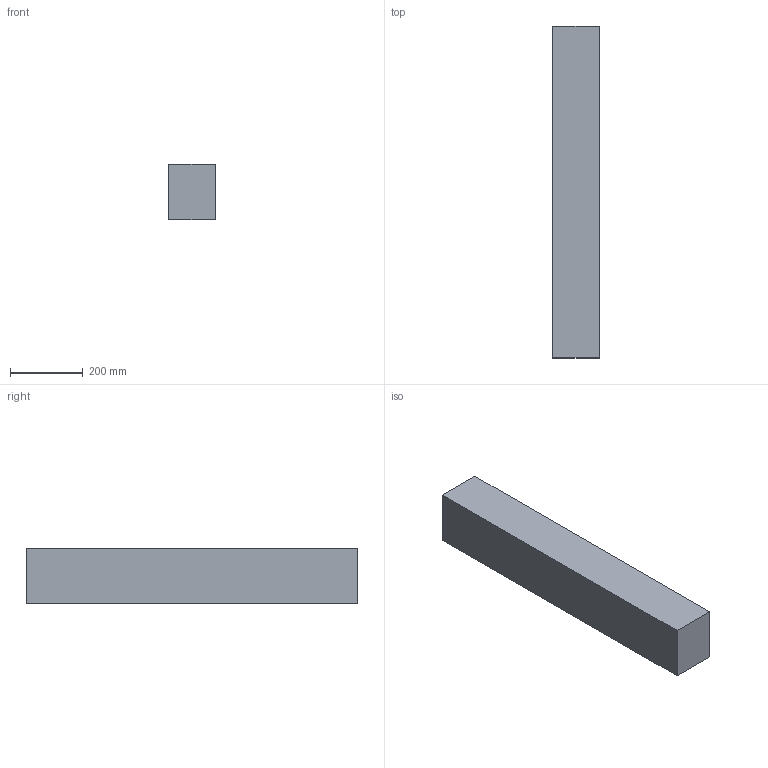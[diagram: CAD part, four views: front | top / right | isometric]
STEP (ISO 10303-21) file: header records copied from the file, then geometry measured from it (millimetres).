
FILE_DESCRIPTION(/* description */ (''),/* implementation_level */ '2;1');
FILE_NAME(/* name */ '5x6x36',/* time_stamp */ '2024-09-20T11:46:06-05:00',/* author */ (''),/* organization */ (''),/* preprocessor_version */ 'ST-DEVELOPER v19.2',/* originating_system */ 'Rhino 8.5',/* authorisation */ '');
FILE_SCHEMA (('CONFIG_CONTROL_DESIGN'));
Length unit declared in the file: inch
Products named in the file (1): Document
Bounding box: 127 x 914.4 x 152.4 mm (x, y, z)
Volume: 17698029.1 mm3; surface area: 549676.3 mm2
Topology: 1 solids, 1 shells, 6 faces, 12 edges, 8 vertices
Faces by surface type: plane 6
Entity records: 226 total; most frequent: CARTESIAN_POINT 40, ORIENTED_EDGE 24, EDGE_CURVE 12, B_SPLINE_CURVE_WITH_KNOTS 12, DIRECTION 10, VERTEX_POINT 8, AXIS2_PLACEMENT_3D 8, ORGANIZATION 7
